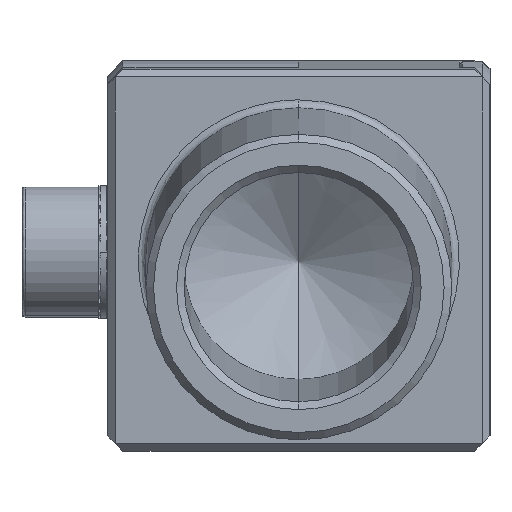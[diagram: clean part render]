
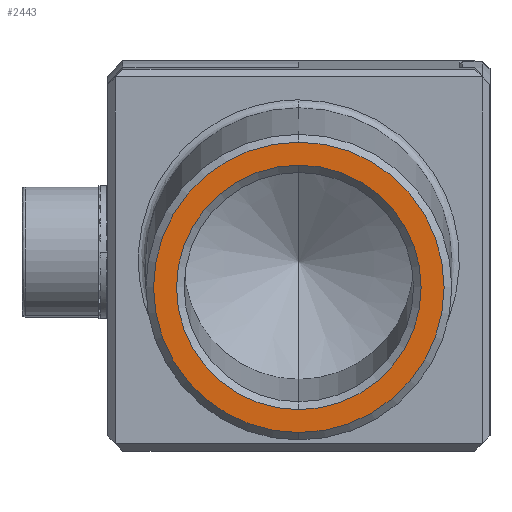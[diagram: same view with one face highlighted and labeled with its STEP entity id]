
A CAD part, left-side view. The second image highlights one B-rep face of the part: STEP entity #2443.
In plain terms, the highlighted planar face has unit normal (-0.999, 0, -0.035).
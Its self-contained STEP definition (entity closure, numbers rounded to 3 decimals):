
#2354 = EDGE_CURVE ( 'NONE', #4978, #31256, #25967, .T. ) ;
#2443 = ADVANCED_FACE ( 'NONE', ( #12097, #27282 ), #27138, .T. ) ;
#2589 = EDGE_LOOP ( 'NONE', ( #28009, #21085 ) ) ;
#3406 = ORIENTED_EDGE ( 'NONE', *, *, #5176, .T. ) ;
#3910 = DIRECTION ( 'NONE',  ( 0.999, 0., 0.035 ) ) ;
#4483 = AXIS2_PLACEMENT_3D ( 'NONE', #12020, #32032, #14899 ) ;
#4978 = VERTEX_POINT ( 'NONE', #13655 ) ;
#5166 = DIRECTION ( 'NONE',  ( -0.999, 0., -0.035 ) ) ;
#5176 = EDGE_CURVE ( 'NONE', #31256, #4978, #27380, .T. ) ;
#7291 = DIRECTION ( 'NONE',  ( -0.999, 0., -0.035 ) ) ;
#7471 = EDGE_CURVE ( 'NONE', #31327, #18976, #30027, .T. ) ;
#10224 = DIRECTION ( 'NONE',  ( -0.999, 0., -0.035 ) ) ;
#12020 = CARTESIAN_POINT ( 'NONE',  ( -92.806, 46.384, -2.732 ) ) ;
#12097 = FACE_BOUND ( 'NONE', #35460, .T. ) ;
#13655 = CARTESIAN_POINT ( 'NONE',  ( -92.523, 46.384, -10.727 ) ) ;
#14899 = DIRECTION ( 'NONE',  ( -0.035, 0., 0.999 ) ) ;
#18976 = VERTEX_POINT ( 'NONE', #34455 ) ;
#21029 = CARTESIAN_POINT ( 'NONE',  ( -92.806, 46.384, -2.732 ) ) ;
#21085 = ORIENTED_EDGE ( 'NONE', *, *, #7471, .T. ) ;
#22269 = CARTESIAN_POINT ( 'NONE',  ( -92.806, 46.384, -2.732 ) ) ;
#23918 = DIRECTION ( 'NONE',  ( -0.035, 0., 0.999 ) ) ;
#24398 = CARTESIAN_POINT ( 'NONE',  ( -92.466, 36.77, -12.34 ) ) ;
#25130 = DIRECTION ( 'NONE',  ( 0.035, 0., -0.999 ) ) ;
#25342 = AXIS2_PLACEMENT_3D ( 'NONE', #21029, #3910, #23918 ) ;
#25967 = CIRCLE ( 'NONE', #25342, 8. ) ;
#27138 = PLANE ( 'NONE',  #28434 ) ;
#27266 = DIRECTION ( 'NONE',  ( -0.035, 0., 0.999 ) ) ;
#27282 = FACE_OUTER_BOUND ( 'NONE', #2589, .T. ) ;
#27317 = CARTESIAN_POINT ( 'NONE',  ( -92.806, 46.384, -2.732 ) ) ;
#27380 = CIRCLE ( 'NONE', #4483, 8. ) ;
#27449 = CARTESIAN_POINT ( 'NONE',  ( -93.089, 46.384, 5.263 ) ) ;
#28009 = ORIENTED_EDGE ( 'NONE', *, *, #35043, .T. ) ;
#28434 = AXIS2_PLACEMENT_3D ( 'NONE', #24398, #7291, #27266 ) ;
#30027 = CIRCLE ( 'NONE', #36527, 9.5 ) ;
#30207 = DIRECTION ( 'NONE',  ( 0.035, 0., -0.999 ) ) ;
#30604 = CARTESIAN_POINT ( 'NONE',  ( -93.143, 46.384, 6.762 ) ) ;
#31256 = VERTEX_POINT ( 'NONE', #27449 ) ;
#31327 = VERTEX_POINT ( 'NONE', #30604 ) ;
#32032 = DIRECTION ( 'NONE',  ( 0.999, 0., 0.035 ) ) ;
#32524 = ORIENTED_EDGE ( 'NONE', *, *, #2354, .T. ) ;
#34455 = CARTESIAN_POINT ( 'NONE',  ( -92.47, 46.384, -12.227 ) ) ;
#35043 = EDGE_CURVE ( 'NONE', #18976, #31327, #36111, .T. ) ;
#35250 = AXIS2_PLACEMENT_3D ( 'NONE', #27317, #10224, #30207 ) ;
#35460 = EDGE_LOOP ( 'NONE', ( #3406, #32524 ) ) ;
#36111 = CIRCLE ( 'NONE', #35250, 9.5 ) ;
#36527 = AXIS2_PLACEMENT_3D ( 'NONE', #22269, #5166, #25130 ) ;
